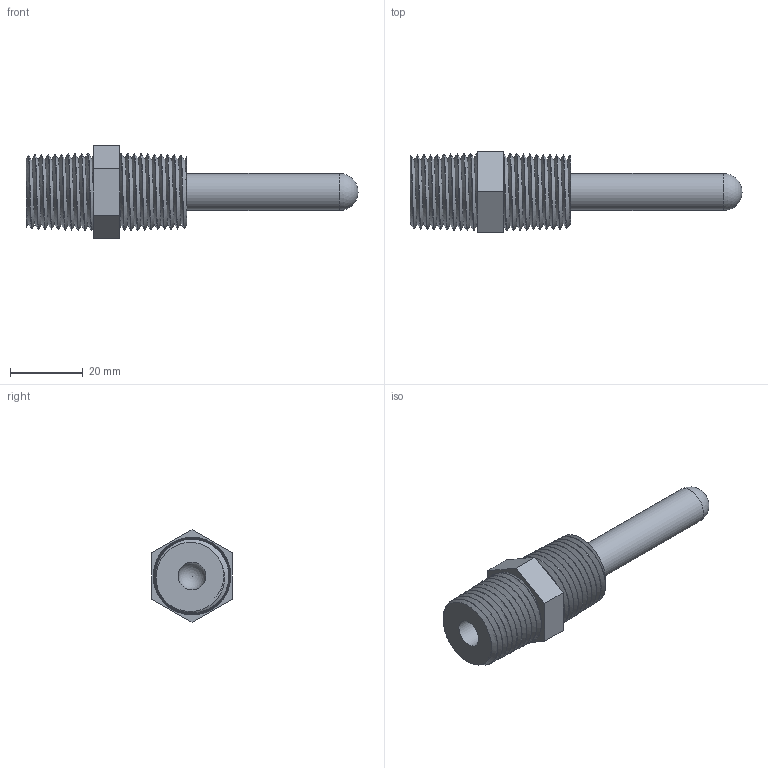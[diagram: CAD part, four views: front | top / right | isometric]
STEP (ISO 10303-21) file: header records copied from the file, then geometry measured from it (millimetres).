
FILE_DESCRIPTION(/* description */ (''),/* implementation_level */ '2;1');
FILE_NAME(/* name */ 'R:\Temp\J. Narvaez\IAN DRAWINGS\002 - Sensors\005 - MCS-WELL\14-005-1_2-DB.stp',/* time_stamp */ '2022-11-14T09:49:17-05:00',/* author */ ('mjeter'),/* organization */ ('unknown'),/* preprocessor_version */ 'ST-DEVELOPER v19',/* originating_system */ 'Autodesk Inventor 2023',/* authorisation */ '');
FILE_SCHEMA (('AUTOMOTIVE_DESIGN { 1 0 10303 214 3 1 1 }'));
Length unit declared in the file: inch
Products named in the file (1): 14-005-1_2-DB
Bounding box: 91.06 x 22 x 25.4 mm (x, y, z)
Volume: 13728.9 mm3; surface area: 8925.3 mm2
Topology: 1 solids, 1 shells, 42 faces, 114 edges, 76 vertices
Faces by surface type: cone 24, plane 10, bspline 4, sphere 2, cylinder 2
Full cylindrical faces by diameter (mm): 7.62 x1, 10.16 x1
Entity records: 10529 total; most frequent: CARTESIAN_POINT 9528, ORIENTED_EDGE 224, DIRECTION 148, EDGE_CURVE 112, VERTEX_POINT 76, B_SPLINE_CURVE_WITH_KNOTS 56, AXIS2_PLACEMENT_3D 53, EDGE_LOOP 46
